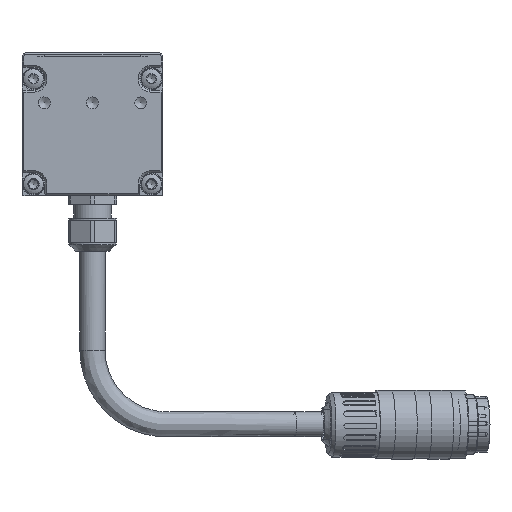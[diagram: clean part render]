
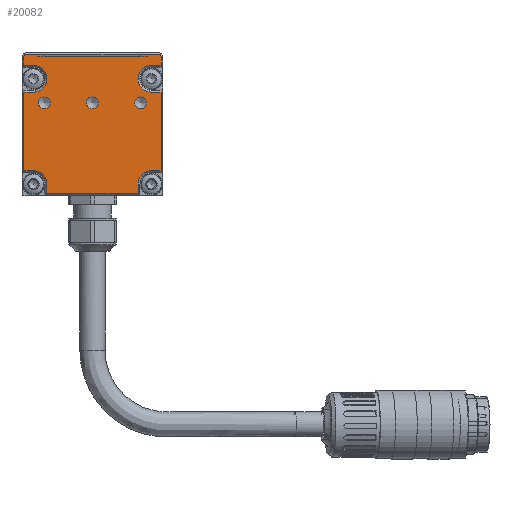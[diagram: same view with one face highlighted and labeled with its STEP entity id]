
A CAD part, left-side view. The second image highlights one B-rep face of the part: STEP entity #20082.
In plain terms, the highlighted planar face has unit normal (-1, 0, 0).
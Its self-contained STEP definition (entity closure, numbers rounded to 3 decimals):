
#880=LINE('',#27913,#1882);
#882=LINE('',#27917,#1884);
#886=LINE('',#27925,#1888);
#889=LINE('',#27931,#1891);
#891=LINE('',#27936,#1893);
#895=LINE('',#27944,#1897);
#897=LINE('',#27948,#1899);
#901=LINE('',#27957,#1903);
#903=LINE('',#27962,#1905);
#906=LINE('',#27970,#1908);
#909=LINE('',#27976,#1911);
#912=LINE('',#27984,#1914);
#916=LINE('',#27992,#1918);
#919=LINE('',#27999,#1921);
#1882=VECTOR('',#23214,1000.);
#1884=VECTOR('',#23218,1000.);
#1888=VECTOR('',#23224,1000.);
#1891=VECTOR('',#23229,1000.);
#1893=VECTOR('',#23235,1000.);
#1897=VECTOR('',#23241,1000.);
#1899=VECTOR('',#23247,1000.);
#1903=VECTOR('',#23257,1000.);
#1905=VECTOR('',#23265,1000.);
#1908=VECTOR('',#23274,1000.);
#1911=VECTOR('',#23283,1000.);
#1914=VECTOR('',#23292,1000.);
#1918=VECTOR('',#23302,1000.);
#1921=VECTOR('',#23311,1000.);
#2682=PLANE('',#21147);
#3923=ORIENTED_EDGE('',*,*,#7674,.T.);
#3924=ORIENTED_EDGE('',*,*,#7675,.T.);
#3925=ORIENTED_EDGE('',*,*,#7676,.T.);
#3926=ORIENTED_EDGE('',*,*,#7648,.T.);
#3927=ORIENTED_EDGE('',*,*,#7645,.T.);
#3928=ORIENTED_EDGE('',*,*,#7639,.T.);
#3929=ORIENTED_EDGE('',*,*,#7656,.T.);
#3930=ORIENTED_EDGE('',*,*,#7654,.T.);
#3931=ORIENTED_EDGE('',*,*,#7652,.T.);
#3932=ORIENTED_EDGE('',*,*,#7630,.T.);
#3933=ORIENTED_EDGE('',*,*,#7663,.T.);
#3934=ORIENTED_EDGE('',*,*,#7661,.T.);
#3935=ORIENTED_EDGE('',*,*,#7659,.T.);
#3936=ORIENTED_EDGE('',*,*,#7628,.T.);
#3937=ORIENTED_EDGE('',*,*,#7673,.F.);
#3938=ORIENTED_EDGE('',*,*,#7643,.T.);
#3939=ORIENTED_EDGE('',*,*,#7672,.F.);
#3940=ORIENTED_EDGE('',*,*,#7637,.T.);
#3941=ORIENTED_EDGE('',*,*,#7671,.T.);
#3942=ORIENTED_EDGE('',*,*,#7669,.T.);
#3943=ORIENTED_EDGE('',*,*,#7667,.T.);
#3944=ORIENTED_EDGE('',*,*,#7634,.T.);
#3945=ORIENTED_EDGE('',*,*,#7650,.T.);
#7628=EDGE_CURVE('',#9566,#9567,#880,.T.);
#7630=EDGE_CURVE('',#9569,#9568,#882,.T.);
#7634=EDGE_CURVE('',#9570,#9571,#886,.T.);
#7637=EDGE_CURVE('',#9572,#9573,#889,.T.);
#7639=EDGE_CURVE('',#9575,#9574,#891,.T.);
#7643=EDGE_CURVE('',#9576,#9577,#895,.T.);
#7645=EDGE_CURVE('',#9578,#9575,#897,.T.);
#7648=EDGE_CURVE('',#9579,#9578,#10697,.T.);
#7650=EDGE_CURVE('',#9571,#9579,#901,.T.);
#7652=EDGE_CURVE('',#9580,#9569,#903,.T.);
#7654=EDGE_CURVE('',#9581,#9580,#10698,.T.);
#7656=EDGE_CURVE('',#9574,#9581,#906,.T.);
#7659=EDGE_CURVE('',#9582,#9566,#909,.T.);
#7661=EDGE_CURVE('',#9583,#9582,#10699,.T.);
#7663=EDGE_CURVE('',#9568,#9583,#912,.T.);
#7667=EDGE_CURVE('',#9584,#9570,#916,.T.);
#7669=EDGE_CURVE('',#9585,#9584,#10700,.T.);
#7671=EDGE_CURVE('',#9573,#9585,#919,.T.);
#7672=EDGE_CURVE('',#9572,#9577,#10701,.T.);
#7673=EDGE_CURVE('',#9576,#9567,#10702,.T.);
#7674=EDGE_CURVE('',#9586,#9586,#10703,.T.);
#7675=EDGE_CURVE('',#9587,#9587,#10704,.T.);
#7676=EDGE_CURVE('',#9588,#9588,#10705,.T.);
#9566=VERTEX_POINT('',#27910);
#9567=VERTEX_POINT('',#27912);
#9568=VERTEX_POINT('',#27916);
#9569=VERTEX_POINT('',#27918);
#9570=VERTEX_POINT('',#27922);
#9571=VERTEX_POINT('',#27924);
#9572=VERTEX_POINT('',#27928);
#9573=VERTEX_POINT('',#27930);
#9574=VERTEX_POINT('',#27935);
#9575=VERTEX_POINT('',#27937);
#9576=VERTEX_POINT('',#27941);
#9577=VERTEX_POINT('',#27943);
#9578=VERTEX_POINT('',#27949);
#9579=VERTEX_POINT('',#27953);
#9580=VERTEX_POINT('',#27963);
#9581=VERTEX_POINT('',#27967);
#9582=VERTEX_POINT('',#27977);
#9583=VERTEX_POINT('',#27981);
#9584=VERTEX_POINT('',#27991);
#9585=VERTEX_POINT('',#27995);
#9586=VERTEX_POINT('',#28007);
#9587=VERTEX_POINT('',#28009);
#9588=VERTEX_POINT('',#28011);
#10697=CIRCLE('',#21122,3.6);
#10698=CIRCLE('',#21128,3.6);
#10699=CIRCLE('',#21134,3.6);
#10700=CIRCLE('',#21140,3.6);
#10701=CIRCLE('',#21144,0.5);
#10702=CIRCLE('',#21146,0.5);
#10703=CIRCLE('',#21148,1.621);
#10704=CIRCLE('',#21149,1.621);
#10705=CIRCLE('',#21150,1.621);
#11388=EDGE_LOOP('',(#3923));
#11389=EDGE_LOOP('',(#3924));
#11390=EDGE_LOOP('',(#3925));
#11391=EDGE_LOOP('',(#3926,#3927,#3928,#3929,#3930,#3931,#3932,#3933,#3934,
#3935,#3936,#3937,#3938,#3939,#3940,#3941,#3942,#3943,#3944,#3945));
#12478=FACE_BOUND('',#11388,.T.);
#12479=FACE_BOUND('',#11389,.T.);
#12480=FACE_BOUND('',#11390,.T.);
#12481=FACE_BOUND('',#11391,.T.);
#20082=ADVANCED_FACE('',(#12478,#12479,#12480,#12481),#2682,.F.);
#21122=AXIS2_PLACEMENT_3D('',#27954,#23252,#23253);
#21128=AXIS2_PLACEMENT_3D('',#27966,#23269,#23270);
#21134=AXIS2_PLACEMENT_3D('',#27980,#23287,#23288);
#21140=AXIS2_PLACEMENT_3D('',#27996,#23306,#23307);
#21144=AXIS2_PLACEMENT_3D('',#28002,#23316,#23317);
#21146=AXIS2_PLACEMENT_3D('',#28004,#23320,#23321);
#21147=AXIS2_PLACEMENT_3D('',#28005,#23322,#23323);
#21148=AXIS2_PLACEMENT_3D('',#28006,#23324,#23325);
#21149=AXIS2_PLACEMENT_3D('',#28008,#23326,#23327);
#21150=AXIS2_PLACEMENT_3D('',#28010,#23328,#23329);
#23214=DIRECTION('',(0.,0.,1.));
#23218=DIRECTION('',(0.,0.,1.));
#23224=DIRECTION('',(0.,0.,-1.));
#23229=DIRECTION('',(0.,0.,-1.));
#23235=DIRECTION('',(0.,-1.,0.));
#23241=DIRECTION('',(0.,1.,0.));
#23247=DIRECTION('',(0.,0.,-1.));
#23252=DIRECTION('',(1.,0.,0.));
#23253=DIRECTION('',(0.,1.,0.));
#23257=DIRECTION('',(0.,-1.,0.));
#23265=DIRECTION('',(0.,-1.,0.));
#23269=DIRECTION('',(1.,0.,0.));
#23270=DIRECTION('',(0.,1.,0.));
#23274=DIRECTION('',(0.,0.,1.));
#23283=DIRECTION('',(0.,-1.,0.));
#23287=DIRECTION('',(1.,0.,0.));
#23288=DIRECTION('',(0.,1.,0.));
#23292=DIRECTION('',(0.,1.,0.));
#23302=DIRECTION('',(0.,1.,0.));
#23306=DIRECTION('',(1.,0.,0.));
#23307=DIRECTION('',(0.,1.,0.));
#23311=DIRECTION('',(0.,-1.,0.));
#23316=DIRECTION('',(1.,0.,0.));
#23317=DIRECTION('',(0.,1.,0.));
#23320=DIRECTION('',(1.,0.,0.));
#23321=DIRECTION('',(0.,1.,0.));
#23322=DIRECTION('',(1.,0.,0.));
#23323=DIRECTION('',(0.,1.,0.));
#23324=DIRECTION('',(1.,0.,0.));
#23325=DIRECTION('',(0.,-1.,0.));
#23326=DIRECTION('',(1.,0.,0.));
#23327=DIRECTION('',(0.,-1.,0.));
#23328=DIRECTION('',(1.,0.,0.));
#23329=DIRECTION('',(0.,-1.,0.));
#27910=CARTESIAN_POINT('',(-1014.998,-18.5,35.119));
#27912=CARTESIAN_POINT('',(-1014.998,-18.5,37.519));
#27913=CARTESIAN_POINT('',(-1014.998,-18.5,0.019));
#27916=CARTESIAN_POINT('',(-1014.998,-18.5,27.919));
#27917=CARTESIAN_POINT('',(-1014.998,-18.5,0.019));
#27918=CARTESIAN_POINT('',(-1014.998,-18.5,6.719));
#27922=CARTESIAN_POINT('',(-1014.998,18.5,27.919));
#27924=CARTESIAN_POINT('',(-1014.998,18.5,6.719));
#27925=CARTESIAN_POINT('',(-1014.998,18.5,0.019));
#27928=CARTESIAN_POINT('',(-1014.998,18.5,37.519));
#27930=CARTESIAN_POINT('',(-1014.998,18.5,35.119));
#27931=CARTESIAN_POINT('',(-1014.998,18.5,0.019));
#27935=CARTESIAN_POINT('',(-1014.998,-12.3,0.519));
#27936=CARTESIAN_POINT('',(-1014.998,-12.3,0.519));
#27937=CARTESIAN_POINT('',(-1014.998,12.3,0.519));
#27941=CARTESIAN_POINT('',(-1014.998,-18.,38.019));
#27943=CARTESIAN_POINT('',(-1014.998,18.,38.019));
#27944=CARTESIAN_POINT('',(-1014.998,-19.,38.019));
#27948=CARTESIAN_POINT('',(-1014.998,12.3,0.019));
#27949=CARTESIAN_POINT('',(-1014.998,12.3,3.119));
#27953=CARTESIAN_POINT('',(-1014.998,15.9,6.719));
#27954=CARTESIAN_POINT('',(-1014.998,15.9,3.119));
#27957=CARTESIAN_POINT('',(-1014.998,-19.,6.719));
#27962=CARTESIAN_POINT('',(-1014.998,-19.,6.719));
#27963=CARTESIAN_POINT('',(-1014.998,-15.9,6.719));
#27966=CARTESIAN_POINT('',(-1014.998,-15.9,3.119));
#27967=CARTESIAN_POINT('',(-1014.998,-12.3,3.119));
#27970=CARTESIAN_POINT('',(-1014.998,-12.3,0.019));
#27976=CARTESIAN_POINT('',(-1014.998,-19.,35.119));
#27977=CARTESIAN_POINT('',(-1014.998,-15.9,35.119));
#27980=CARTESIAN_POINT('',(-1014.998,-15.9,31.519));
#27981=CARTESIAN_POINT('',(-1014.998,-15.9,27.919));
#27984=CARTESIAN_POINT('',(-1014.998,-19.,27.919));
#27991=CARTESIAN_POINT('',(-1014.998,15.9,27.919));
#27992=CARTESIAN_POINT('',(-1014.998,-19.,27.919));
#27995=CARTESIAN_POINT('',(-1014.998,15.9,35.119));
#27996=CARTESIAN_POINT('',(-1014.998,15.9,31.519));
#27999=CARTESIAN_POINT('',(-1014.998,-19.,35.119));
#28002=CARTESIAN_POINT('',(-1014.998,18.,37.519));
#28004=CARTESIAN_POINT('',(-1014.998,-18.,37.519));
#28005=CARTESIAN_POINT('',(-1014.998,-19.,0.019));
#28006=CARTESIAN_POINT('',(-1014.998,13.,25.019));
#28007=CARTESIAN_POINT('',(-1014.998,11.379,25.019));
#28008=CARTESIAN_POINT('',(-1014.998,0.,25.019));
#28009=CARTESIAN_POINT('',(-1014.998,-1.621,25.019));
#28010=CARTESIAN_POINT('',(-1014.998,-13.,25.019));
#28011=CARTESIAN_POINT('',(-1014.998,-14.621,25.019));
